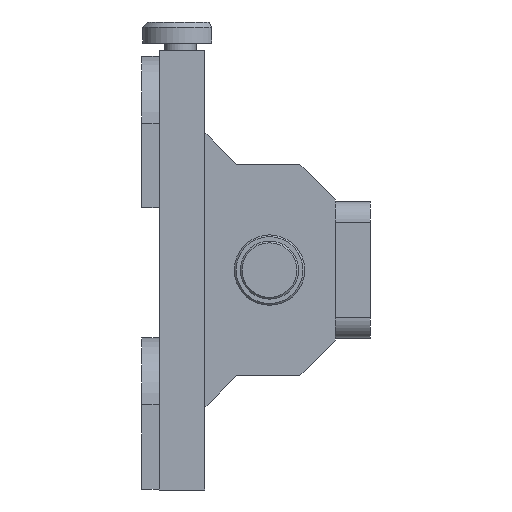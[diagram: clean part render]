
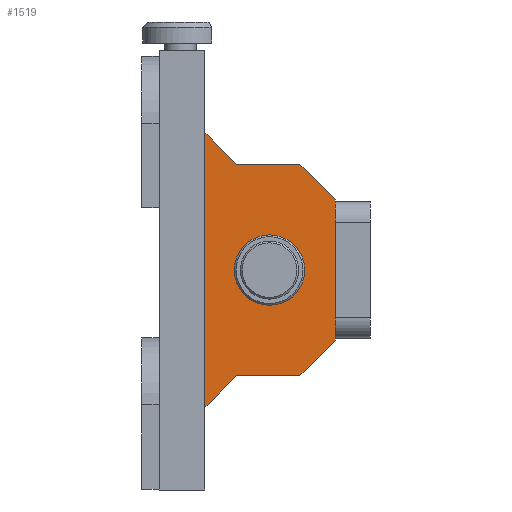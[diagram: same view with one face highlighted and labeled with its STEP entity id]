
A CAD part, left-side view. The second image highlights one B-rep face of the part: STEP entity #1519.
In plain terms, the highlighted planar face has unit normal (-1, 0, 0).
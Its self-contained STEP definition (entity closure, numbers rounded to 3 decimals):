
#11 = DIRECTION ( 'NONE',  ( 0., 0., 1. ) ) ;
#36 = CARTESIAN_POINT ( 'NONE',  ( -13.5, 20., 20. ) ) ;
#195 = DIRECTION ( 'NONE',  ( 0., 1., 0. ) ) ;
#211 = CARTESIAN_POINT ( 'NONE',  ( -13.5, 57., -39. ) ) ;
#215 = VECTOR ( 'NONE', #11, 1000. ) ;
#224 = CARTESIAN_POINT ( 'NONE',  ( -13.5, 57., 62.5 ) ) ;
#251 = VECTOR ( 'NONE', #2892, 1000. ) ;
#257 = DIRECTION ( 'NONE',  ( 0., 0., -1. ) ) ;
#275 = CARTESIAN_POINT ( 'NONE',  ( -13.5, 20., -20. ) ) ;
#292 = EDGE_CURVE ( 'NONE', #621, #2883, #1811, .T. ) ;
#297 = VECTOR ( 'NONE', #2152, 1000. ) ;
#349 = LINE ( 'NONE', #1253, #1865 ) ;
#381 = VERTEX_POINT ( 'NONE', #560 ) ;
#389 = CARTESIAN_POINT ( 'NONE',  ( -13.5, 20., -20. ) ) ;
#399 = VECTOR ( 'NONE', #2113, 1000. ) ;
#425 = VERTEX_POINT ( 'NONE', #2672 ) ;
#501 = EDGE_CURVE ( 'NONE', #2464, #2871, #554, .T. ) ;
#508 = ORIENTED_EDGE ( 'NONE', *, *, #644, .F. ) ;
#554 = LINE ( 'NONE', #1228, #297 ) ;
#560 = CARTESIAN_POINT ( 'NONE',  ( -13.5, 48., -30. ) ) ;
#604 = LINE ( 'NONE', #1522, #1252 ) ;
#621 = VERTEX_POINT ( 'NONE', #36 ) ;
#644 = EDGE_CURVE ( 'NONE', #2883, #2704, #2039, .T. ) ;
#649 = AXIS2_PLACEMENT_3D ( 'NONE', #2857, #1726, #2647 ) ;
#671 = PLANE ( 'NONE',  #2817 ) ;
#676 = ORIENTED_EDGE ( 'NONE', *, *, #1090, .F. ) ;
#709 = CARTESIAN_POINT ( 'NONE',  ( -13.5, 20., -20. ) ) ;
#726 = EDGE_CURVE ( 'NONE', #381, #2674, #2095, .T. ) ;
#765 = CARTESIAN_POINT ( 'NONE',  ( -13.5, 48., -30. ) ) ;
#858 = VERTEX_POINT ( 'NONE', #2489 ) ;
#866 = ORIENTED_EDGE ( 'NONE', *, *, #1755, .F. ) ;
#874 = CARTESIAN_POINT ( 'NONE',  ( -13.5, 38.66, -10. ) ) ;
#880 = ORIENTED_EDGE ( 'NONE', *, *, #1407, .F. ) ;
#941 = CARTESIAN_POINT ( 'NONE',  ( -13.5, 57., 39. ) ) ;
#957 = LINE ( 'NONE', #941, #2678 ) ;
#975 = DIRECTION ( 'NONE',  ( 0., 0., -1. ) ) ;
#1090 = EDGE_CURVE ( 'NONE', #2871, #381, #604, .T. ) ;
#1091 = ORIENTED_EDGE ( 'NONE', *, *, #726, .F. ) ;
#1092 = VERTEX_POINT ( 'NONE', #874 ) ;
#1100 = LINE ( 'NONE', #1975, #1205 ) ;
#1128 = EDGE_LOOP ( 'NONE', ( #1791, #1091, #676, #1750, #1326, #508, #1463, #2087, #866, #1753 ) ) ;
#1150 = CARTESIAN_POINT ( 'NONE',  ( -13.5, 48., 30. ) ) ;
#1205 = VECTOR ( 'NONE', #1990, 1000. ) ;
#1228 = CARTESIAN_POINT ( 'NONE',  ( -13.5, 30., -30. ) ) ;
#1252 = VECTOR ( 'NONE', #195, 1000. ) ;
#1253 = CARTESIAN_POINT ( 'NONE',  ( -13.5, 20., 20. ) ) ;
#1326 = ORIENTED_EDGE ( 'NONE', *, *, #1996, .F. ) ;
#1328 = EDGE_CURVE ( 'NONE', #858, #621, #349, .T. ) ;
#1380 = FACE_BOUND ( 'NONE', #1406, .T. ) ;
#1406 = EDGE_LOOP ( 'NONE', ( #880 ) ) ;
#1407 = EDGE_CURVE ( 'NONE', #1092, #1092, #2488, .T. ) ;
#1463 = ORIENTED_EDGE ( 'NONE', *, *, #292, .F. ) ;
#1511 = VERTEX_POINT ( 'NONE', #1150 ) ;
#1512 = VECTOR ( 'NONE', #257, 1000. ) ;
#1519 = ADVANCED_FACE ( 'NONE', ( #1380, #2461 ), #671, .F. ) ;
#1522 = CARTESIAN_POINT ( 'NONE',  ( -13.5, 48., -30. ) ) ;
#1571 = CARTESIAN_POINT ( 'NONE',  ( -13.5, 20., -19.5 ) ) ;
#1586 = CARTESIAN_POINT ( 'NONE',  ( -13.5, 20., -20. ) ) ;
#1726 = DIRECTION ( 'NONE',  ( -1., 0., 0. ) ) ;
#1750 = ORIENTED_EDGE ( 'NONE', *, *, #501, .F. ) ;
#1753 = ORIENTED_EDGE ( 'NONE', *, *, #2836, .F. ) ;
#1755 = EDGE_CURVE ( 'NONE', #1511, #858, #1100, .T. ) ;
#1767 = LINE ( 'NONE', #389, #251 ) ;
#1791 = ORIENTED_EDGE ( 'NONE', *, *, #2019, .F. ) ;
#1805 = LINE ( 'NONE', #2923, #215 ) ;
#1811 = LINE ( 'NONE', #1586, #1512 ) ;
#1814 = DIRECTION ( 'NONE',  ( 1., 0., 0. ) ) ;
#1865 = VECTOR ( 'NONE', #2158, 1000. ) ;
#1975 = CARTESIAN_POINT ( 'NONE',  ( -13.5, 30., 30. ) ) ;
#1990 = DIRECTION ( 'NONE',  ( 0., -1., 0. ) ) ;
#1996 = EDGE_CURVE ( 'NONE', #2704, #2464, #1767, .T. ) ;
#2019 = EDGE_CURVE ( 'NONE', #2674, #425, #1805, .T. ) ;
#2039 = LINE ( 'NONE', #709, #2242 ) ;
#2087 = ORIENTED_EDGE ( 'NONE', *, *, #1328, .F. ) ;
#2095 = LINE ( 'NONE', #765, #399 ) ;
#2113 = DIRECTION ( 'NONE',  ( 0., 0.707, -0.707 ) ) ;
#2152 = DIRECTION ( 'NONE',  ( 0., 0.707, -0.707 ) ) ;
#2158 = DIRECTION ( 'NONE',  ( 0., -0.707, -0.707 ) ) ;
#2242 = VECTOR ( 'NONE', #2283, 1000. ) ;
#2283 = DIRECTION ( 'NONE',  ( 0., 0., -1. ) ) ;
#2461 = FACE_OUTER_BOUND ( 'NONE', #1128, .T. ) ;
#2464 = VERTEX_POINT ( 'NONE', #275 ) ;
#2488 = CIRCLE ( 'NONE', #649, 10. ) ;
#2489 = CARTESIAN_POINT ( 'NONE',  ( -13.5, 30., 30. ) ) ;
#2547 = DIRECTION ( 'NONE',  ( 0., -0.707, -0.707 ) ) ;
#2647 = DIRECTION ( 'NONE',  ( 0., 0., -1. ) ) ;
#2663 = CARTESIAN_POINT ( 'NONE',  ( -13.5, 30., -30. ) ) ;
#2672 = CARTESIAN_POINT ( 'NONE',  ( -13.5, 57., 39. ) ) ;
#2674 = VERTEX_POINT ( 'NONE', #211 ) ;
#2678 = VECTOR ( 'NONE', #2547, 1000. ) ;
#2704 = VERTEX_POINT ( 'NONE', #1571 ) ;
#2810 = CARTESIAN_POINT ( 'NONE',  ( -13.5, 20., 19.5 ) ) ;
#2817 = AXIS2_PLACEMENT_3D ( 'NONE', #224, #1814, #975 ) ;
#2836 = EDGE_CURVE ( 'NONE', #425, #1511, #957, .T. ) ;
#2857 = CARTESIAN_POINT ( 'NONE',  ( -13.5, 38.66, 0. ) ) ;
#2871 = VERTEX_POINT ( 'NONE', #2663 ) ;
#2883 = VERTEX_POINT ( 'NONE', #2810 ) ;
#2892 = DIRECTION ( 'NONE',  ( 0., 0., -1. ) ) ;
#2923 = CARTESIAN_POINT ( 'NONE',  ( -13.5, 57., 62.5 ) ) ;
